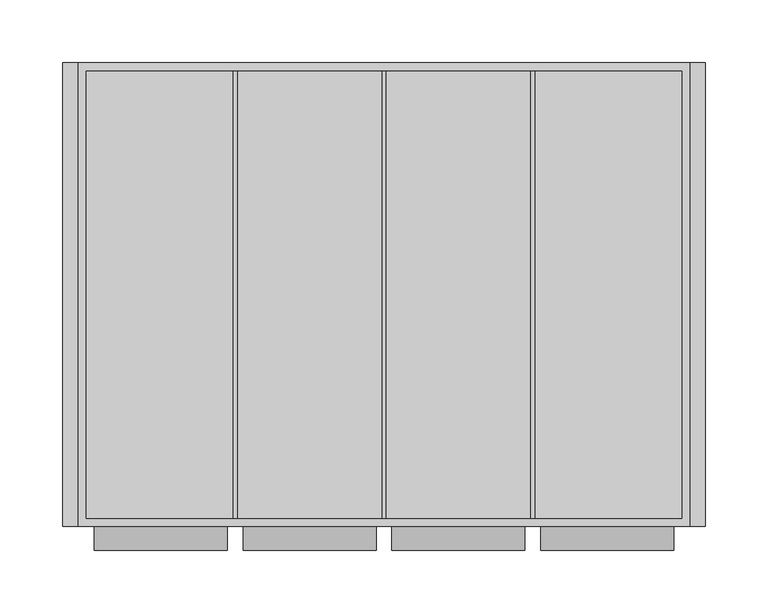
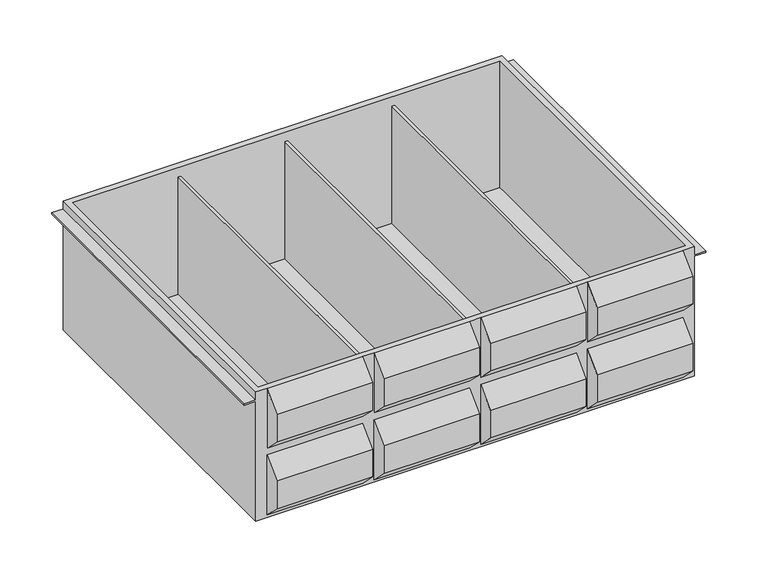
"""IFC4 building model written with IfcOpenShell, lengths in millimetres: furniture geometry, HermanMiller_CoStruc_CO565_Cassette Assembly : 6H x 15D x 20W."""

from ifc_helpers import new_model, si_unit, origin, place, context, project, spatial, faceted_brep, source, transform, mapped, element, save


def furniture_c494f6ee(model_context):
    return source(origin(), model_context, "Body", "Brep", [
        faceted_brep([(-238.125, -176.2125, 1154.0998), (-250.825, -176.2125, 1154.0998), (-250.825, -176.2125, 1144.5875), (-263.525, -176.2125, 1144.5875), (-263.525, -176.2125, 1143.0), (-250.825, -176.2125, 1143.0), (-250.825, -176.2125, 1001.6998), (238.125, -176.2125, 1001.6998), (238.125, -176.2125, 1143.0), (250.825, -176.2125, 1143.0), (250.825, -176.2125, 1144.5875), (238.125, -176.2125, 1144.5875), (238.125, -176.2125, 1154.0998), (225.425, -176.2125, 1154.0998), (225.425, -176.2125, 1083.5115237), (119.0625, -176.2125, 1083.5115237), (119.0625, -176.2125, 1154.0998), (106.3625, -176.2125, 1154.0998), (106.3625, -176.2125, 1083.5115237), (0.0, -176.2125, 1083.5115237), (0.0, -176.2125, 1154.0998), (-12.7, -176.2125, 1154.0998), (-12.7, -176.2125, 1083.5115237), (-119.0625, -176.2125, 1083.5115237), (-119.0625, -176.2125, 1154.0998), (-131.7625, -176.2125, 1154.0998), (-131.7625, -176.2125, 1083.5115237), (-238.125, -176.2125, 1083.5115237), (-131.7625, -176.2125, 1075.3142481), (-131.7625, -176.2125, 1004.7259719), (-238.125, -176.2125, 1004.7259719), (-238.125, -176.2125, 1075.3142481), (-119.0625, -176.2125, 1004.7259719), (-119.0625, -176.2125, 1075.3142481), (-12.7, -176.2125, 1075.3142481), (-12.7, -176.2125, 1004.7259719), (106.3625, -176.2125, 1075.3142481), (106.3625, -176.2125, 1004.7259719), (0.0, -176.2125, 1004.7259719), (0.0, -176.2125, 1075.3142481), (119.0625, -176.2125, 1004.7259719), (119.0625, -176.2125, 1075.3142481), (225.425, -176.2125, 1075.3142481), (225.425, -176.2125, 1004.7259719), (-250.825, 195.2625, 1154.0998), (238.125, 195.2625, 1154.0998), (238.125, 195.2625, 1144.5875), (250.825, 195.2625, 1144.5875), (250.825, 195.2625, 1143.0), (238.125, 195.2625, 1143.0), (238.125, 195.2625, 1001.6998), (-250.825, 195.2625, 1001.6998), (-250.825, 195.2625, 1143.0), (-263.525, 195.2625, 1143.0), (-263.525, 195.2625, 1144.5875), (-250.825, 195.2625, 1144.5875), (231.775, -169.8625, 1154.0998), (-244.475, -169.8625, 1154.0998), (-244.475, 188.2775, 1154.0998), (231.775, 188.2775, 1154.0998), (-131.7625, -195.2625, 1023.7759719), (-131.7625, -195.2625, 1056.2642481), (-131.7625, -195.2625, 1135.0498), (-131.7625, -195.2625, 1102.5615237), (-238.125, -195.2625, 1023.7759719), (-238.125, -195.2625, 1056.2642481), (-238.125, -195.2625, 1102.5615237), (-238.125, -195.2625, 1135.0498), (231.775, -169.8625, 1004.7259719), (231.775, 188.2775, 1004.7259719), (114.3, 188.2775, 1004.7259719), (114.3, -169.8625, 1004.7259719), (-244.475, 188.2775, 1004.7259719), (-244.475, -169.8625, 1004.7259719), (-127.0, -169.8625, 1004.7259719), (-127.0, 188.2775, 1004.7259719), (-4.7625, -169.8625, 1004.7259719), (111.125, -169.8625, 1004.7259719), (111.125, 188.2775, 1004.7259719), (-4.7625, 188.2775, 1004.7259719), (-123.825, -169.8625, 1004.7259719), (-7.9375, -169.8625, 1004.7259719), (-7.9375, 188.2775, 1004.7259719), (-123.825, 188.2775, 1004.7259719), (114.3, -169.8625, 1143.0), (111.125, -169.8625, 1143.0), (-4.7625, -169.8625, 1143.0), (-7.9375, -169.8625, 1143.0), (-123.825, -169.8625, 1143.0), (-127.0, -169.8625, 1143.0), (-127.0, 188.2775, 1143.0), (-123.825, 188.2775, 1143.0), (-7.9375, 188.2775, 1143.0), (-4.7625, 188.2775, 1143.0), (111.125, 188.2775, 1143.0), (114.3, 188.2775, 1143.0), (-119.0625, -195.2625, 1023.7759719), (-119.0625, -195.2625, 1056.2642481), (-119.0625, -195.2625, 1102.5615237), (-119.0625, -195.2625, 1135.0498), (-12.7, -195.2625, 1023.7759719), (-12.7, -195.2625, 1056.2642481), (-12.7, -195.2625, 1135.0498), (-12.7, -195.2625, 1102.5615237), (106.3625, -195.2625, 1023.7759719), (106.3625, -195.2625, 1056.2642481), (106.3625, -195.2625, 1135.0498), (106.3625, -195.2625, 1102.5615237), (0.0, -195.2625, 1023.7759719), (0.0, -195.2625, 1056.2642481), (0.0, -195.2625, 1102.5615237), (0.0, -195.2625, 1135.0498), (119.0625, -195.2625, 1023.7759719), (119.0625, -195.2625, 1056.2642481), (119.0625, -195.2625, 1102.5615237), (119.0625, -195.2625, 1135.0498), (225.425, -195.2625, 1023.7759719), (225.425, -195.2625, 1056.2642481), (225.425, -195.2625, 1135.0498), (225.425, -195.2625, 1102.5615237)], [[[0, 1, 2, 3, 4, 5, 6, 7, 8, 9, 10, 11, 12, 13, 14, 15, 16, 17, 18, 19, 20, 21, 22, 23, 24, 25, 26, 27], [28, 29, 30, 31], [32, 33, 34, 35], [36, 37, 38, 39], [40, 41, 42, 43]], [[44, 45, 46, 47, 48, 49, 50, 51, 52, 53, 54, 55]], [[51, 50, 7, 6]], [[7, 50, 49, 8]], [[45, 12, 11, 46]], [[45, 44, 1, 0, 25, 24, 21, 20, 17, 16, 13, 12], [56, 57, 58, 59]], [[51, 6, 5, 52]], [[1, 44, 55, 2]], [[60, 29, 28, 61]], [[25, 62, 63, 26]], [[64, 65, 31, 30]], [[27, 66, 67, 0]], [[29, 60, 64, 30]], [[62, 25, 0, 67]], [[63, 62, 67, 66]], [[26, 63, 66, 27]], [[61, 28, 31, 65]], [[60, 61, 65, 64]], [[68, 69, 70, 71]], [[72, 73, 74, 75]], [[76, 77, 78, 79]], [[80, 81, 82, 83]], [[56, 68, 71, 84, 85, 77, 76, 86, 87, 81, 80, 88, 89, 74, 73, 57]], [[69, 68, 56, 59]], [[69, 59, 58, 72, 75, 90, 91, 83, 82, 92, 93, 79, 78, 94, 95, 70]], [[73, 72, 58, 57]], [[96, 97, 33, 32]], [[23, 98, 99, 24]], [[100, 35, 34, 101]], [[21, 102, 103, 22]], [[97, 96, 100, 101]], [[33, 97, 101, 34]], [[98, 23, 22, 103]], [[99, 98, 103, 102]], [[24, 99, 102, 21]], [[96, 32, 35, 100]], [[104, 37, 36, 105]], [[17, 106, 107, 18]], [[108, 109, 39, 38]], [[19, 110, 111, 20]], [[37, 104, 108, 38]], [[106, 17, 20, 111]], [[107, 106, 111, 110]], [[18, 107, 110, 19]], [[105, 36, 39, 109]], [[104, 105, 109, 108]], [[112, 113, 41, 40]], [[15, 114, 115, 16]], [[116, 43, 42, 117]], [[13, 118, 119, 14]], [[113, 112, 116, 117]], [[41, 113, 117, 42]], [[114, 15, 14, 119]], [[115, 114, 119, 118]], [[16, 115, 118, 13]], [[112, 40, 43, 116]], [[54, 53, 4, 3]], [[55, 54, 3, 2]], [[53, 52, 5, 4]], [[49, 48, 9, 8]], [[47, 46, 11, 10]], [[48, 47, 10, 9]], [[88, 91, 90, 89]], [[84, 95, 94, 85]], [[86, 93, 92, 87]], [[91, 88, 80, 83]], [[89, 90, 75, 74]], [[95, 84, 71, 70]], [[85, 94, 78, 77]], [[93, 86, 76, 79]], [[87, 92, 82, 81]]]),
    ])


if __name__ == "__main__":
    model = new_model("IFC4")
    model_context = context("Model", 3, world=origin())
    ifc_project = project(units=[si_unit("LENGTHUNIT", "METRE", prefix="MILLI")], contexts=[model_context])
    site = spatial("IfcSite", under=ifc_project)
    building = spatial("IfcBuilding", under=site)
    placement = place(None, origin())
    furniture_shape = furniture_c494f6ee(model_context)
    element("IfcFurniture", 1, ObjectType="HermanMiller_CoStruc_CO565_Cassette Assembly : 6H x 15D x 20W", at=placement, inside=building, context=model_context, shape_type="MappedRepresentation", body=[
        mapped(furniture_shape, transform((0.0, 0.0, 0.0), x_axis=(1.0, 0.0, 0.0), y_axis=(0.0, 1.0, 0.0), z_axis=(0.0, 0.0, 1.0))),
    ])
    save(model, "model.ifc")
